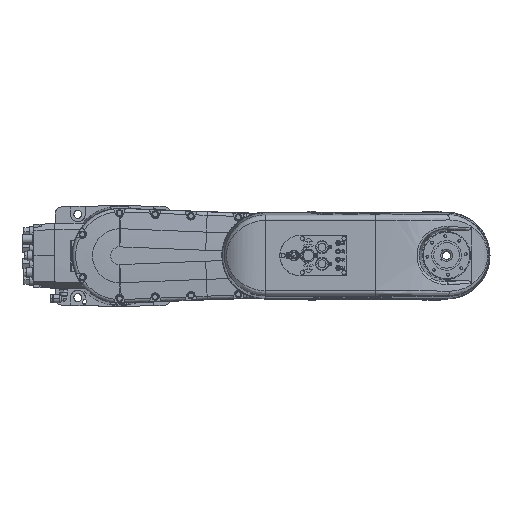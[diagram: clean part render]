
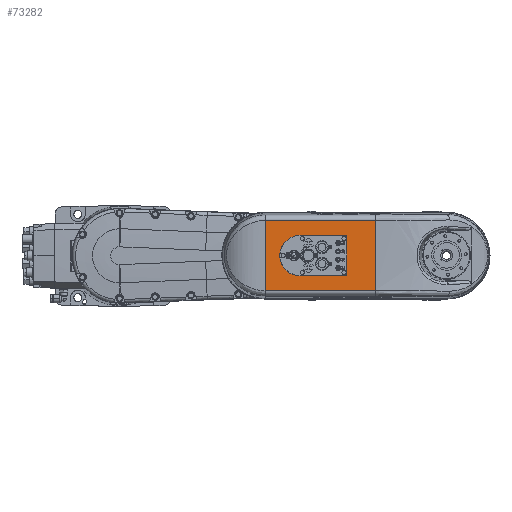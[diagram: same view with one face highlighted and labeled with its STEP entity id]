
A CAD part, top view. The second image highlights one B-rep face of the part: STEP entity #73282.
In plain terms, the highlighted planar face has unit normal (0, 0, 1).
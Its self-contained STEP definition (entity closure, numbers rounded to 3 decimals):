
#692 = CARTESIAN_POINT ( 'NONE',  ( 382.5, 32.001, 457.7 ) ) ;
#1223 = EDGE_CURVE ( 'NONE', #40459, #29690, #103238, .T. ) ;
#5949 = EDGE_LOOP ( 'NONE', ( #73629, #18077, #8261, #23311 ) ) ;
#6516 = VERTEX_POINT ( 'NONE', #14075 ) ;
#8261 = ORIENTED_EDGE ( 'NONE', *, *, #92866, .F. ) ;
#8739 = LINE ( 'NONE', #72870, #86413 ) ;
#8763 =( BOUNDED_CURVE ( )  B_SPLINE_CURVE ( 3, ( #34281, #60670, #51138, #59942 ),
 .UNSPECIFIED., .F., .T. ) 
 B_SPLINE_CURVE_WITH_KNOTS ( ( 4, 4 ),
 ( 2.357, 3.927 ),
 .UNSPECIFIED. ) 
 CURVE ( )  GEOMETRIC_REPRESENTATION_ITEM ( )  RATIONAL_B_SPLINE_CURVE ( ( 1., 0.805, 0.805, 1. ) ) 
 REPRESENTATION_ITEM ( '' )  );
#10657 = DIRECTION ( 'NONE',  ( 0., 0., 1. ) ) ;
#10925 = AXIS2_PLACEMENT_3D ( 'NONE', #53839, #88878, #20392 ) ;
#12006 = DIRECTION ( 'NONE',  ( 1., 0., 0. ) ) ;
#14075 = CARTESIAN_POINT ( 'NONE',  ( 245., -59.156, 457.7 ) ) ;
#15416 = CARTESIAN_POINT ( 'NONE',  ( 245., 59.156, 457.7 ) ) ;
#17852 = DIRECTION ( 'NONE',  ( 1., 0., 0. ) ) ;
#18077 = ORIENTED_EDGE ( 'NONE', *, *, #1223, .T. ) ;
#18152 = DIRECTION ( 'NONE',  ( 0., 1., 0. ) ) ;
#18543 = CARTESIAN_POINT ( 'NONE',  ( 380.501, 34., 457.7 ) ) ;
#20392 = DIRECTION ( 'NONE',  ( 0., -1., 0. ) ) ;
#21078 = VERTEX_POINT ( 'NONE', #76907 ) ;
#21162 = EDGE_CURVE ( 'NONE', #60724, #29313, #8763, .T. ) ;
#23311 = ORIENTED_EDGE ( 'NONE', *, *, #53512, .T. ) ;
#23980 = ORIENTED_EDGE ( 'NONE', *, *, #70891, .F. ) ;
#24716 = CARTESIAN_POINT ( 'NONE',  ( 430., -705.455, 457.7 ) ) ;
#24985 = CARTESIAN_POINT ( 'NONE',  ( 245., 59.156, 457.7 ) ) ;
#25561 = CARTESIAN_POINT ( 'NONE',  ( 382.5, 34., 457.7 ) ) ;
#25567 = VECTOR ( 'NONE', #92364, 1000. ) ;
#25690 = EDGE_CURVE ( 'NONE', #64545, #21078, #49080, .T. ) ;
#26849 = VECTOR ( 'NONE', #18152, 1000. ) ;
#29313 = VERTEX_POINT ( 'NONE', #692 ) ;
#29690 = VERTEX_POINT ( 'NONE', #15416 ) ;
#31845 = ORIENTED_EDGE ( 'NONE', *, *, #83919, .F. ) ;
#34281 = CARTESIAN_POINT ( 'NONE',  ( 380.501, 34., 457.7 ) ) ;
#34917 = LINE ( 'NONE', #25561, #26849 ) ;
#36061 = FACE_OUTER_BOUND ( 'NONE', #5949, .T. ) ;
#38873 = ORIENTED_EDGE ( 'NONE', *, *, #21162, .T. ) ;
#40286 = CARTESIAN_POINT ( 'NONE',  ( 382.5, 34., 457.7 ) ) ;
#40459 = VERTEX_POINT ( 'NONE', #94328 ) ;
#40718 = EDGE_CURVE ( 'NONE', #107507, #40459, #64407, .T. ) ;
#41378 = VERTEX_POINT ( 'NONE', #56119 ) ;
#41740 = CIRCLE ( 'NONE', #93812, 34. ) ;
#42042 = VECTOR ( 'NONE', #49736, 1000. ) ;
#46636 = LINE ( 'NONE', #101423, #53082 ) ;
#48247 = EDGE_CURVE ( 'NONE', #60724, #41378, #75572, .T. ) ;
#48622 = CARTESIAN_POINT ( 'NONE',  ( 382.5, -33.172, 457.7 ) ) ;
#49080 =( BOUNDED_CURVE ( )  B_SPLINE_CURVE ( 3, ( #90985, #48622, #82157, #56715 ),
 .UNSPECIFIED., .F., .F. ) 
 B_SPLINE_CURVE_WITH_KNOTS ( ( 4, 4 ),
 ( 2.357, 3.927 ),
 .UNSPECIFIED. ) 
 CURVE ( )  GEOMETRIC_REPRESENTATION_ITEM ( )  RATIONAL_B_SPLINE_CURVE ( ( 1., 0.805, 0.805, 1. ) ) 
 REPRESENTATION_ITEM ( '' )  );
#49736 = DIRECTION ( 'NONE',  ( 0., 1., 0. ) ) ;
#51138 = CARTESIAN_POINT ( 'NONE',  ( 382.5, 33.172, 457.7 ) ) ;
#53082 = VECTOR ( 'NONE', #17852, 1000. ) ;
#53512 = EDGE_CURVE ( 'NONE', #6516, #107507, #46636, .T. ) ;
#53839 = CARTESIAN_POINT ( 'NONE',  ( 245., 0., 457.7 ) ) ;
#56119 = CARTESIAN_POINT ( 'NONE',  ( 303.5, 34., 457.7 ) ) ;
#56715 = CARTESIAN_POINT ( 'NONE',  ( 380.501, -34., 457.7 ) ) ;
#57870 = EDGE_CURVE ( 'NONE', #41378, #79199, #41740, .T. ) ;
#59942 = CARTESIAN_POINT ( 'NONE',  ( 382.5, 32.001, 457.7 ) ) ;
#60670 = CARTESIAN_POINT ( 'NONE',  ( 381.672, 34., 457.7 ) ) ;
#60724 = VERTEX_POINT ( 'NONE', #18543 ) ;
#64407 = LINE ( 'NONE', #24716, #42042 ) ;
#64545 = VERTEX_POINT ( 'NONE', #86484 ) ;
#67818 = CARTESIAN_POINT ( 'NONE',  ( 303.5, -34., 457.7 ) ) ;
#70295 = DIRECTION ( 'NONE',  ( 0., 1., 0. ) ) ;
#70548 = CARTESIAN_POINT ( 'NONE',  ( 382.5, -34., 457.7 ) ) ;
#70891 = EDGE_CURVE ( 'NONE', #64545, #29313, #34917, .T. ) ;
#72296 = ORIENTED_EDGE ( 'NONE', *, *, #25690, .T. ) ;
#72870 = CARTESIAN_POINT ( 'NONE',  ( 245., -705.242, 457.7 ) ) ;
#73156 = ORIENTED_EDGE ( 'NONE', *, *, #48247, .F. ) ;
#73282 = ADVANCED_FACE ( 'NONE', ( #36061, #80871 ), #104297, .T. ) ;
#73629 = ORIENTED_EDGE ( 'NONE', *, *, #40718, .T. ) ;
#75572 = LINE ( 'NONE', #40286, #108545 ) ;
#76907 = CARTESIAN_POINT ( 'NONE',  ( 380.501, -34., 457.7 ) ) ;
#79199 = VERTEX_POINT ( 'NONE', #67818 ) ;
#80453 = LINE ( 'NONE', #70548, #108082 ) ;
#80871 = FACE_BOUND ( 'NONE', #93680, .T. ) ;
#82157 = CARTESIAN_POINT ( 'NONE',  ( 381.672, -34., 457.7 ) ) ;
#83919 = EDGE_CURVE ( 'NONE', #79199, #21078, #80453, .T. ) ;
#84756 = DIRECTION ( 'NONE',  ( -1., 0., 0. ) ) ;
#86413 = VECTOR ( 'NONE', #106380, 1000. ) ;
#86484 = CARTESIAN_POINT ( 'NONE',  ( 382.5, -32.001, 457.7 ) ) ;
#88878 = DIRECTION ( 'NONE',  ( 0., 0., 1. ) ) ;
#90985 = CARTESIAN_POINT ( 'NONE',  ( 382.5, -32.001, 457.7 ) ) ;
#92364 = DIRECTION ( 'NONE',  ( -1., 0., 0. ) ) ;
#92866 = EDGE_CURVE ( 'NONE', #6516, #29690, #8739, .T. ) ;
#93680 = EDGE_LOOP ( 'NONE', ( #73156, #38873, #23980, #72296, #31845, #96517 ) ) ;
#93798 = CARTESIAN_POINT ( 'NONE',  ( 430., -59.156, 457.7 ) ) ;
#93812 = AXIS2_PLACEMENT_3D ( 'NONE', #96078, #10657, #70295 ) ;
#94328 = CARTESIAN_POINT ( 'NONE',  ( 430., 59.156, 457.7 ) ) ;
#96078 = CARTESIAN_POINT ( 'NONE',  ( 303.5, 0., 457.7 ) ) ;
#96517 = ORIENTED_EDGE ( 'NONE', *, *, #57870, .F. ) ;
#101423 = CARTESIAN_POINT ( 'NONE',  ( 430., -59.156, 457.7 ) ) ;
#103238 = LINE ( 'NONE', #24985, #25567 ) ;
#104297 = PLANE ( 'NONE',  #10925 ) ;
#106380 = DIRECTION ( 'NONE',  ( 0., 1., 0. ) ) ;
#107507 = VERTEX_POINT ( 'NONE', #93798 ) ;
#108082 = VECTOR ( 'NONE', #12006, 1000. ) ;
#108545 = VECTOR ( 'NONE', #84756, 1000. ) ;
